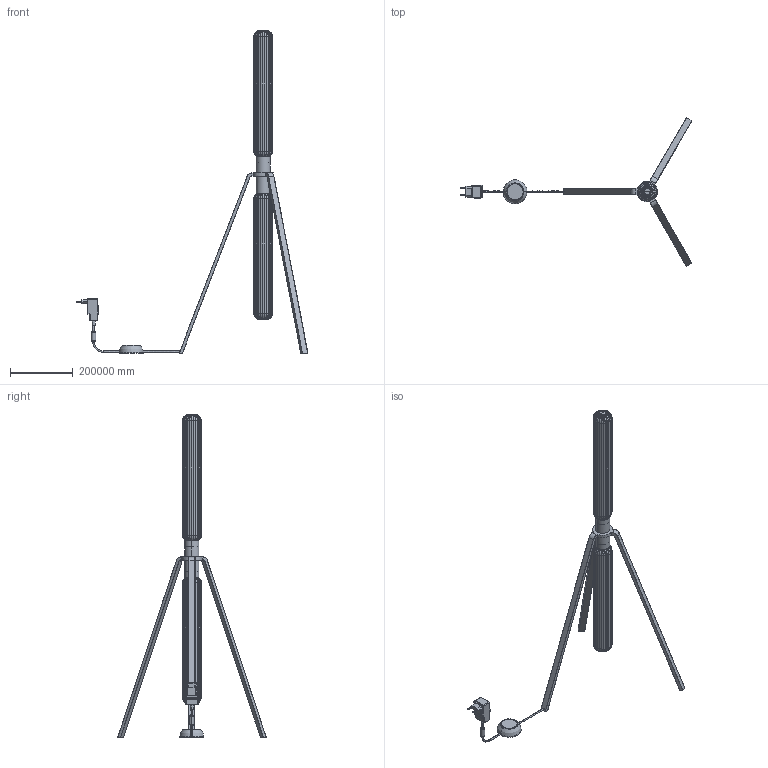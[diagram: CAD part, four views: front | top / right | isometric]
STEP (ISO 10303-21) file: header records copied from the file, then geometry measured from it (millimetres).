
FILE_DESCRIPTION(/* description */ (''),/* implementation_level */ '2;1');
FILE_NAME(/* name */ 'Cipher Floor',/* time_stamp */ '2019-01-21T14:42:13+01:00',/* author */ (''),/* organization */ (''),/* preprocessor_version */ 'ST-DEVELOPER v15',/* originating_system */ '',/* authorisation */ '');
FILE_SCHEMA (('AUTOMOTIVE_DESIGN'));
Length unit declared in the file: metre
Products named in the file (3): Document; Glass side; Block 16
Assembly tree (2 placements, depth 3):
  Document
    Glass side
      Block 16
Bounding box: 738290.17 x 472742.72 x 1027494.53 mm (x, y, z)
Volume: 828105701920886.4 mm3; surface area: 509018519255.5 mm2
Topology: 10 solids, 11 shells, 751 faces, 1732 edges, 986 vertices
Faces by surface type: bspline 751
Entity records: 57825 total; most frequent: CARTESIAN_POINT 36526, B_SPLINE_CURVE_WITH_KNOTS 3896, ORIENTED_EDGE 3416, PCURVE 3416, DEFINITIONAL_REPRESENTATION 3416, SURFACE_CURVE 1726, EDGE_CURVE 1726, VERTEX_POINT 986
